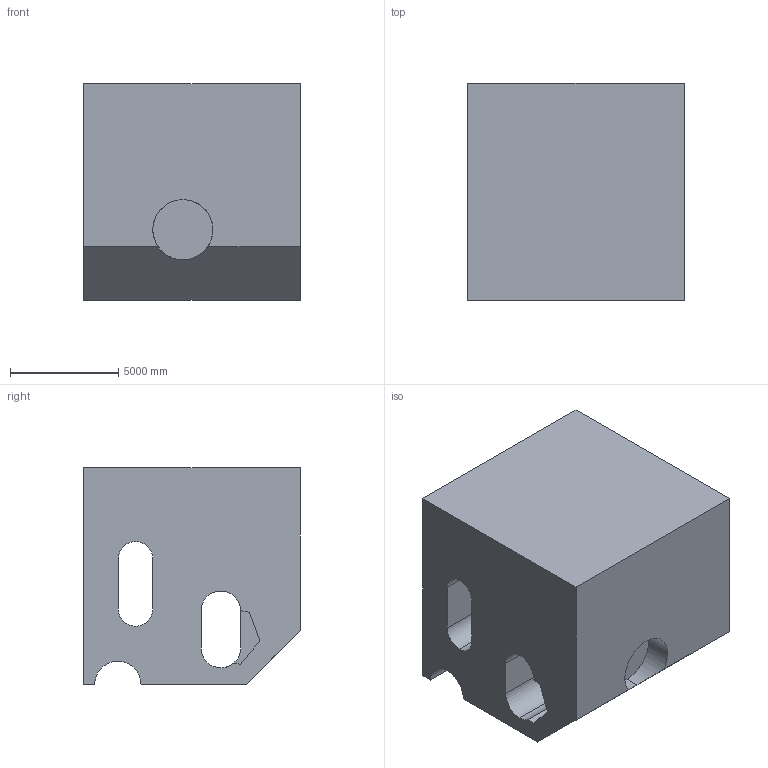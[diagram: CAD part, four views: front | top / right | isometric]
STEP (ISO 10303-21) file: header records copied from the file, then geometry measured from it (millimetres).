
FILE_DESCRIPTION (( 'STEP AP203' ), '1' );
FILE_NAME ('652.STEP', '2022-07-29T12:19:06', ( 'user' ), ( '' ), 'SwSTEP 2.0', 'SolidWorks 2021', '' );
FILE_SCHEMA (( 'CONFIG_CONTROL_DESIGN' ));
Length unit declared in the file: centimetre
Products named in the file (1): 652
Bounding box: 10000 x 10000 x 10000 mm (x, y, z)
Volume: 799310516049.2 mm3; surface area: 809676144.2 mm2
Topology: 1 solids, 1 shells, 35 faces, 96 edges, 64 vertices
Faces by surface type: plane 25, cylinder 10
Entity records: 1197 total; most frequent: CARTESIAN_POINT 202, ORIENTED_EDGE 192, DIRECTION 188, EDGE_CURVE 96, VECTOR 72, LINE 72, VERTEX_POINT 64, AXIS2_PLACEMENT_3D 58
